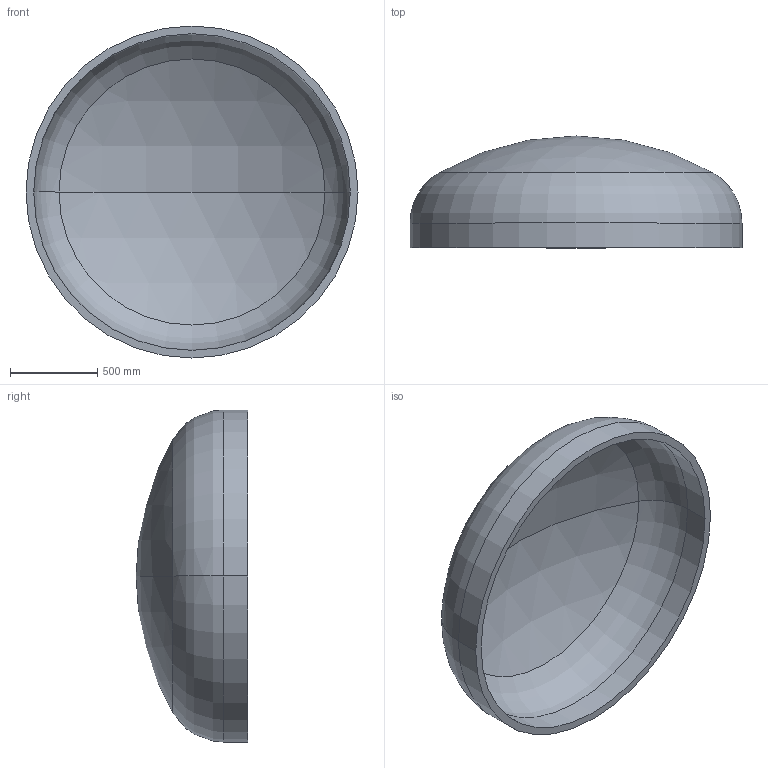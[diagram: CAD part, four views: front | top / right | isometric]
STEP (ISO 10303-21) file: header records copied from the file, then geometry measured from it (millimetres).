
FILE_DESCRIPTION (( 'STEP AP203' ), '1' );
FILE_NAME ('DIN 28013 Korbbogenform_-_Boden DIN 28013 - 1900 x 140 - I - s=44.step', '2016-07-01T13:10:18', ( '' ), ( '' ), 'SwSTEP 2.0', 'SolidWorks 2013', '' );
FILE_SCHEMA (( 'CONFIG_CONTROL_DESIGN' ));
Length unit declared in the file: millimetre
Products named in the file (1): DIN 28013 Korbbogenform_-_Boden DIN 28013 - 1900 x 140 - I - s=44
Bounding box: 1900 x 639.37 x 1900 mm (x, y, z)
Volume: 203225161.3 mm3; surface area: 9498114.3 mm2
Topology: 1 solids, 1 shells, 13 faces, 24 edges, 14 vertices
Faces by surface type: torus 4, cylinder 4, sphere 4, plane 1
Entity records: 407 total; most frequent: DIRECTION 72, CARTESIAN_POINT 52, ORIENTED_EDGE 48, AXIS2_PLACEMENT_3D 34, EDGE_CURVE 24, CIRCLE 20, VERTEX_POINT 14, EDGE_LOOP 14
